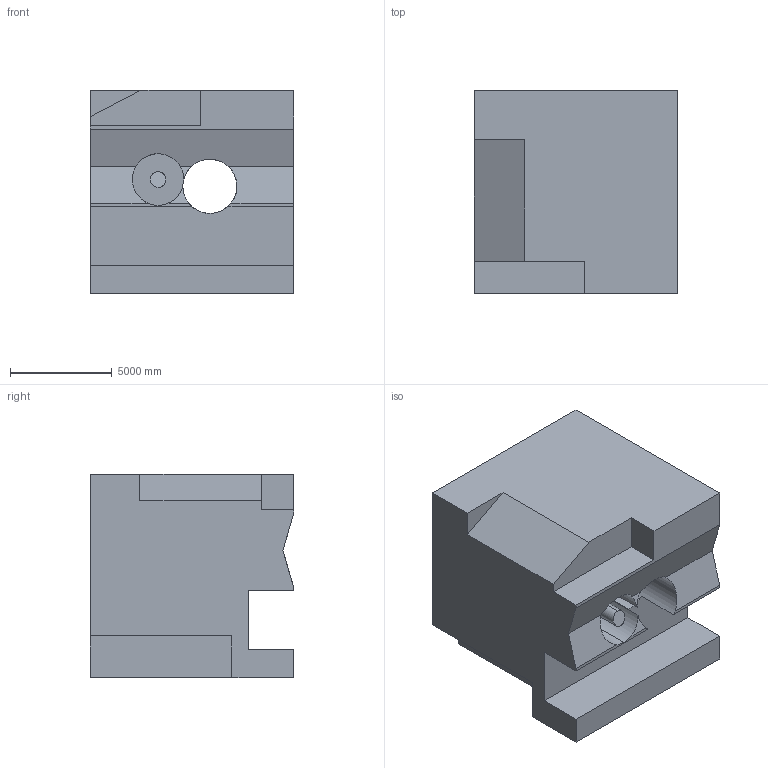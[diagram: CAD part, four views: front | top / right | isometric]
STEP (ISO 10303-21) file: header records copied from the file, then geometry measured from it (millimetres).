
FILE_DESCRIPTION (( 'STEP AP203' ), '1' );
FILE_NAME ('626.STEP', '2022-08-04T14:34:59', ( 'user' ), ( '' ), 'SwSTEP 2.0', 'SolidWorks 2021', '' );
FILE_SCHEMA (( 'CONFIG_CONTROL_DESIGN' ));
Length unit declared in the file: centimetre
Products named in the file (1): 626
Bounding box: 10000 x 10000 x 10000 mm (x, y, z)
Volume: 788891709146.2 mm3; surface area: 755618962.4 mm2
Topology: 1 solids, 1 shells, 35 faces, 99 edges, 66 vertices
Faces by surface type: plane 28, cylinder 7
Entity records: 1208 total; most frequent: CARTESIAN_POINT 237, ORIENTED_EDGE 198, DIRECTION 173, EDGE_CURVE 99, VECTOR 73, LINE 73, VERTEX_POINT 66, AXIS2_PLACEMENT_3D 50
